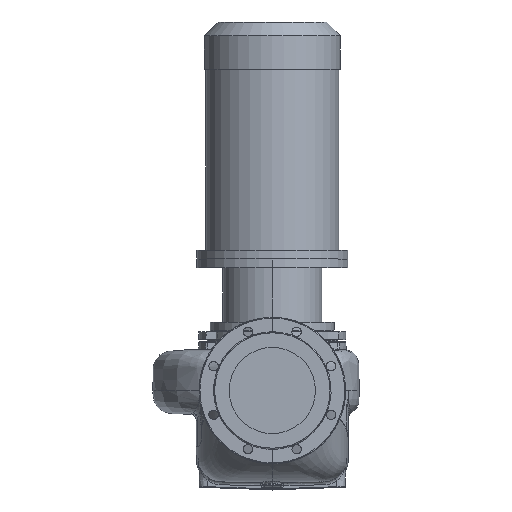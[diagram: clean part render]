
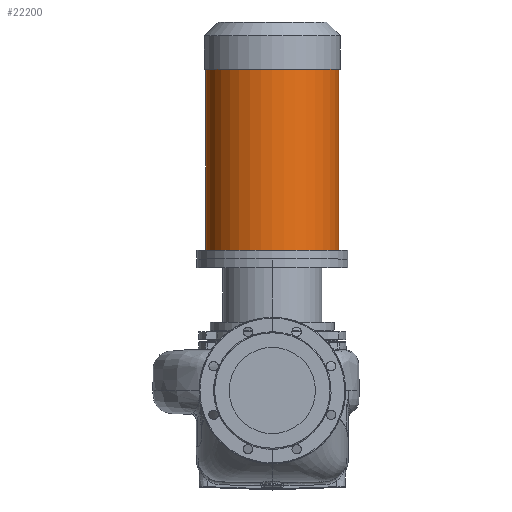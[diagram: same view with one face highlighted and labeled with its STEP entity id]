
A CAD part, top view. The second image highlights one B-rep face of the part: STEP entity #22200.
In plain terms, the highlighted cylindrical face has radius 154.5 mm (diameter 309 mm), a partial arc.
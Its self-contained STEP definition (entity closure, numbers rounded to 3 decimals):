
#2958 = LINE ( 'NONE', #64771, #23886 ) ;
#4999 = DIRECTION ( 'NONE',  ( -1., 0., 0. ) ) ;
#5237 = DIRECTION ( 'NONE',  ( 0., -1., 0. ) ) ;
#10112 = DIRECTION ( 'NONE',  ( 0., -1., 0. ) ) ;
#10841 = EDGE_CURVE ( 'NONE', #21030, #41853, #2958, .T. ) ;
#10947 = ORIENTED_EDGE ( 'NONE', *, *, #65320, .F. ) ;
#12076 = EDGE_CURVE ( 'NONE', #66886, #45782, #23717, .T. ) ;
#14539 = VECTOR ( 'NONE', #10112, 1000. ) ;
#17856 = AXIS2_PLACEMENT_3D ( 'NONE', #46056, #35300, #50275 ) ;
#21030 = VERTEX_POINT ( 'NONE', #46502 ) ;
#21987 = AXIS2_PLACEMENT_3D ( 'NONE', #26066, #68835, #42143 ) ;
#22200 = ADVANCED_FACE ( 'NONE', ( #54767 ), #27194, .T. ) ;
#23717 = LINE ( 'NONE', #36715, #14539 ) ;
#23886 = VECTOR ( 'NONE', #38089, 1000. ) ;
#24320 = ORIENTED_EDGE ( 'NONE', *, *, #12076, .T. ) ;
#26066 = CARTESIAN_POINT ( 'NONE',  ( 0., 745.8, 0. ) ) ;
#27194 = CYLINDRICAL_SURFACE ( 'NONE', #17856, 154.5 ) ;
#31858 = CIRCLE ( 'NONE', #21987, 154.5 ) ;
#32000 = CARTESIAN_POINT ( 'NONE',  ( -154.5, 745.8, 0. ) ) ;
#35300 = DIRECTION ( 'NONE',  ( 0., -1., 0. ) ) ;
#36715 = CARTESIAN_POINT ( 'NONE',  ( -154.5, 305.8, 0. ) ) ;
#37479 = CARTESIAN_POINT ( 'NONE',  ( 0., 325.8, 0. ) ) ;
#38089 = DIRECTION ( 'NONE',  ( 0., -1., 0. ) ) ;
#38252 = CARTESIAN_POINT ( 'NONE',  ( 154.5, 325.8, 0. ) ) ;
#40156 = AXIS2_PLACEMENT_3D ( 'NONE', #37479, #5237, #4999 ) ;
#41853 = VERTEX_POINT ( 'NONE', #38252 ) ;
#42143 = DIRECTION ( 'NONE',  ( -1., 0., 0. ) ) ;
#44416 = EDGE_LOOP ( 'NONE', ( #54691, #62460, #24320, #10947 ) ) ;
#45782 = VERTEX_POINT ( 'NONE', #48631 ) ;
#46056 = CARTESIAN_POINT ( 'NONE',  ( 0., 305.8, 0. ) ) ;
#46502 = CARTESIAN_POINT ( 'NONE',  ( 154.5, 745.8, 0. ) ) ;
#48631 = CARTESIAN_POINT ( 'NONE',  ( -154.5, 325.8, 0. ) ) ;
#50275 = DIRECTION ( 'NONE',  ( -1., 0., 0. ) ) ;
#54691 = ORIENTED_EDGE ( 'NONE', *, *, #10841, .F. ) ;
#54767 = FACE_OUTER_BOUND ( 'NONE', #44416, .T. ) ;
#56476 = CIRCLE ( 'NONE', #40156, 154.5 ) ;
#62460 = ORIENTED_EDGE ( 'NONE', *, *, #68769, .T. ) ;
#64771 = CARTESIAN_POINT ( 'NONE',  ( 154.5, 305.8, 0. ) ) ;
#65320 = EDGE_CURVE ( 'NONE', #41853, #45782, #56476, .T. ) ;
#66886 = VERTEX_POINT ( 'NONE', #32000 ) ;
#68769 = EDGE_CURVE ( 'NONE', #21030, #66886, #31858, .T. ) ;
#68835 = DIRECTION ( 'NONE',  ( 0., -1., 0. ) ) ;
